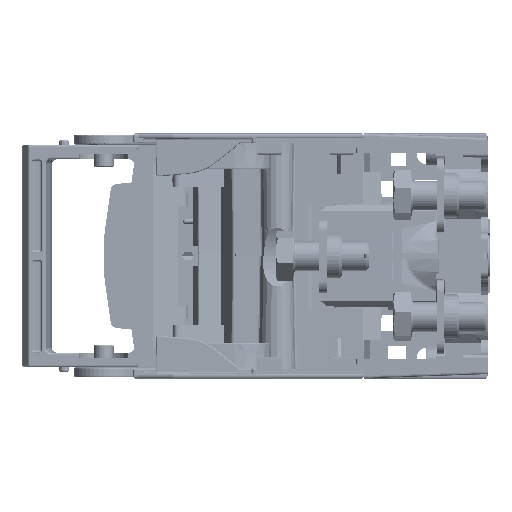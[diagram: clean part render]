
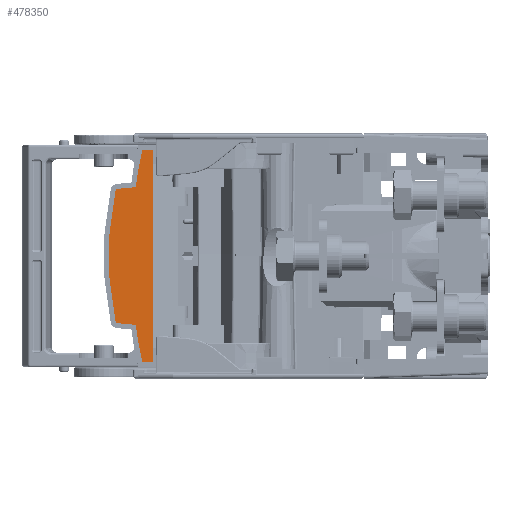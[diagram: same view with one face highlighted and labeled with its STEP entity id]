
A CAD part, left-side view. The second image highlights one B-rep face of the part: STEP entity #478350.
In plain terms, the highlighted planar face has unit normal (-1, 0, 0).
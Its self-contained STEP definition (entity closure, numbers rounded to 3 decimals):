
#39852 = AXIS2_PLACEMENT_3D ( 'NONE', #428108, #428111, #428113 ) ;
#56106 = LINE ( 'NONE', #56144, #185611 ) ;
#56144 = CARTESIAN_POINT ( 'NONE',  ( -375., 100.099, -27.095 ) ) ;
#56148 = DIRECTION ( 'NONE',  ( 0., -0.996, -0.087 ) ) ;
#57516 = EDGE_CURVE ( 'NONE', #282541, #294485, #176055, .T. ) ;
#146684 = CARTESIAN_POINT ( 'NONE',  ( -375., 89.564, -42.208 ) ) ;
#154154 = CARTESIAN_POINT ( 'NONE',  ( -375., 88.585, 43. ) ) ;
#154588 = CARTESIAN_POINT ( 'NONE',  ( -375., 85., 43. ) ) ;
#154685 = CARTESIAN_POINT ( 'NONE',  ( -375., 92.088, -27.796 ) ) ;
#155196 = CARTESIAN_POINT ( 'NONE',  ( -375., 92.088, 27.796 ) ) ;
#156143 = CARTESIAN_POINT ( 'NONE',  ( -375., 85., -43. ) ) ;
#156320 = CARTESIAN_POINT ( 'NONE',  ( -375., 100.254, -26.369 ) ) ;
#176053 = AXIS2_PLACEMENT_3D ( 'NONE', #208065, #208066, #208067 ) ;
#176055 = CIRCLE ( 'NONE', #176053, 203. ) ;
#185611 = VECTOR ( 'NONE', #56148, 1000. ) ;
#207222 = CARTESIAN_POINT ( 'NONE',  ( -375., 88.585, -43. ) ) ;
#207428 = CARTESIAN_POINT ( 'NONE',  ( -375., 99.363, 27.16 ) ) ;
#208065 = CARTESIAN_POINT ( 'NONE',  ( -375., -109., 0. ) ) ;
#208066 = DIRECTION ( 'NONE',  ( 1., 0., 0. ) ) ;
#208067 = DIRECTION ( 'NONE',  ( 0., 0., -1. ) ) ;
#211908 = VECTOR ( 'NONE', #440154, 1000. ) ;
#211910 = CIRCLE ( 'NONE', #211926, 1. ) ;
#211926 = AXIS2_PLACEMENT_3D ( 'NONE', #440148, #440149, #440151 ) ;
#212128 = AXIS2_PLACEMENT_3D ( 'NONE', #440754, #440757, #440759 ) ;
#212130 = CIRCLE ( 'NONE', #212128, 1. ) ;
#212348 = AXIS2_PLACEMENT_3D ( 'NONE', #441231, #441232, #441233 ) ;
#212353 = CIRCLE ( 'NONE', #212348, 1. ) ;
#215558 = CIRCLE ( 'NONE', #215585, 128. ) ;
#215585 = AXIS2_PLACEMENT_3D ( 'NONE', #512102, #512106, #512110 ) ;
#274091 = VECTOR ( 'NONE', #416344, 1000. ) ;
#279873 = LINE ( 'NONE', #279914, #511306 ) ;
#279914 = CARTESIAN_POINT ( 'NONE',  ( -375., 89.394, 43. ) ) ;
#279919 = DIRECTION ( 'NONE',  ( 0., -1., 0. ) ) ;
#281363 = VERTEX_POINT ( 'NONE', #154154 ) ;
#281862 = VERTEX_POINT ( 'NONE', #154588 ) ;
#281982 = VERTEX_POINT ( 'NONE', #154685 ) ;
#282541 = VERTEX_POINT ( 'NONE', #155196 ) ;
#283600 = VERTEX_POINT ( 'NONE', #156143 ) ;
#283777 = VERTEX_POINT ( 'NONE', #156320 ) ;
#290930 = VERTEX_POINT ( 'NONE', #146684 ) ;
#291547 = VERTEX_POINT ( 'NONE', #431442 ) ;
#294485 = VERTEX_POINT ( 'NONE', #505022 ) ;
#296470 = VERTEX_POINT ( 'NONE', #207222 ) ;
#296520 = VERTEX_POINT ( 'NONE', #207428 ) ;
#298030 = VERTEX_POINT ( 'NONE', #490428 ) ;
#337321 = EDGE_CURVE ( 'NONE', #283600, #281862, #493837, .T. ) ;
#338057 = EDGE_CURVE ( 'NONE', #291547, #283777, #215558, .T. ) ;
#340011 = ORIENTED_EDGE ( 'NONE', *, *, #337321, .T. ) ;
#340017 = ORIENTED_EDGE ( 'NONE', *, *, #398096, .T. ) ;
#340024 = ORIENTED_EDGE ( 'NONE', *, *, #392209, .T. ) ;
#340031 = ORIENTED_EDGE ( 'NONE', *, *, #391642, .T. ) ;
#340038 = ORIENTED_EDGE ( 'NONE', *, *, #392910, .T. ) ;
#340045 = ORIENTED_EDGE ( 'NONE', *, *, #396861, .T. ) ;
#340053 = ORIENTED_EDGE ( 'NONE', *, *, #338057, .T. ) ;
#340060 = ORIENTED_EDGE ( 'NONE', *, *, #396814, .T. ) ;
#340067 = ORIENTED_EDGE ( 'NONE', *, *, #396817, .F. ) ;
#340075 = ORIENTED_EDGE ( 'NONE', *, *, #57516, .F. ) ;
#340081 = ORIENTED_EDGE ( 'NONE', *, *, #396941, .T. ) ;
#340090 = ORIENTED_EDGE ( 'NONE', *, *, #394309, .F. ) ;
#391642 = EDGE_CURVE ( 'NONE', #281982, #290930, #415032, .T. ) ;
#392209 = EDGE_CURVE ( 'NONE', #290930, #296470, #415983, .T. ) ;
#392910 = EDGE_CURVE ( 'NONE', #298030, #281982, #56106, .T. ) ;
#394309 = EDGE_CURVE ( 'NONE', #281363, #281862, #279873, .T. ) ;
#396814 = EDGE_CURVE ( 'NONE', #296520, #291547, #211910, .T. ) ;
#396817 = EDGE_CURVE ( 'NONE', #296520, #282541, #440146, .T. ) ;
#396861 = EDGE_CURVE ( 'NONE', #283777, #298030, #212130, .T. ) ;
#396941 = EDGE_CURVE ( 'NONE', #281363, #294485, #212353, .T. ) ;
#398096 = EDGE_CURVE ( 'NONE', #296470, #283600, #416295, .T. ) ;
#404576 = CARTESIAN_POINT ( 'NONE',  ( -375., 88.585, -42. ) ) ;
#404581 = DIRECTION ( 'NONE',  ( -1., 0., 0. ) ) ;
#404585 = DIRECTION ( 'NONE',  ( 0., 0., 1. ) ) ;
#415029 = AXIS2_PLACEMENT_3D ( 'NONE', #471948, #471951, #471955 ) ;
#415032 = CIRCLE ( 'NONE', #415029, 203. ) ;
#415983 = CIRCLE ( 'NONE', #415984, 1. ) ;
#415984 = AXIS2_PLACEMENT_3D ( 'NONE', #404576, #404581, #404585 ) ;
#416295 = LINE ( 'NONE', #416339, #274091 ) ;
#416339 = CARTESIAN_POINT ( 'NONE',  ( -375., 89.394, -43. ) ) ;
#416344 = DIRECTION ( 'NONE',  ( 0., -1., 0. ) ) ;
#428043 = PLANE ( 'NONE',  #39852 ) ;
#428058 = FACE_OUTER_BOUND ( 'NONE', #536417, .T. ) ;
#428108 = CARTESIAN_POINT ( 'NONE',  ( -375., -109., 0. ) ) ;
#428111 = DIRECTION ( 'NONE',  ( -1., 0., 0. ) ) ;
#428113 = DIRECTION ( 'NONE',  ( 0., 0., 1. ) ) ;
#429265 = VECTOR ( 'NONE', #493848, 1000. ) ;
#431442 = CARTESIAN_POINT ( 'NONE',  ( -375., 100.254, 26.369 ) ) ;
#440143 = CARTESIAN_POINT ( 'NONE',  ( -375., 100.099, 27.095 ) ) ;
#440146 = LINE ( 'NONE', #440143, #211908 ) ;
#440148 = CARTESIAN_POINT ( 'NONE',  ( -375., 99.276, 26.163 ) ) ;
#440149 = DIRECTION ( 'NONE',  ( -1., 0., 0. ) ) ;
#440151 = DIRECTION ( 'NONE',  ( 0., 0., 1. ) ) ;
#440154 = DIRECTION ( 'NONE',  ( 0., -0.996, 0.087 ) ) ;
#440754 = CARTESIAN_POINT ( 'NONE',  ( -375., 99.276, -26.163 ) ) ;
#440757 = DIRECTION ( 'NONE',  ( -1., 0., 0. ) ) ;
#440759 = DIRECTION ( 'NONE',  ( 0., 0., 1. ) ) ;
#441231 = CARTESIAN_POINT ( 'NONE',  ( -375., 88.585, 42. ) ) ;
#441232 = DIRECTION ( 'NONE',  ( -1., 0., 0. ) ) ;
#441233 = DIRECTION ( 'NONE',  ( 0., 0., 1. ) ) ;
#471948 = CARTESIAN_POINT ( 'NONE',  ( -375., -109., 0. ) ) ;
#471951 = DIRECTION ( 'NONE',  ( -1., 0., 0. ) ) ;
#471955 = DIRECTION ( 'NONE',  ( 0., 0., 1. ) ) ;
#478350 = ADVANCED_FACE ( 'NONE', ( #428058 ), #428043, .T. ) ;
#490428 = CARTESIAN_POINT ( 'NONE',  ( -375., 99.363, -27.16 ) ) ;
#493837 = LINE ( 'NONE', #493845, #429265 ) ;
#493845 = CARTESIAN_POINT ( 'NONE',  ( -375., 85., -43. ) ) ;
#493848 = DIRECTION ( 'NONE',  ( 0., 0., 1. ) ) ;
#505022 = CARTESIAN_POINT ( 'NONE',  ( -375., 89.564, 42.208 ) ) ;
#511306 = VECTOR ( 'NONE', #279919, 1000. ) ;
#512102 = CARTESIAN_POINT ( 'NONE',  ( -375., -25., 0. ) ) ;
#512106 = DIRECTION ( 'NONE',  ( -1., 0., 0. ) ) ;
#512110 = DIRECTION ( 'NONE',  ( 0., 0., 1. ) ) ;
#536417 = EDGE_LOOP ( 'NONE', ( #340090, #340081, #340075, #340067, #340060, #340053, #340045, #340038, #340031, #340024, #340017, #340011 ) ) ;
